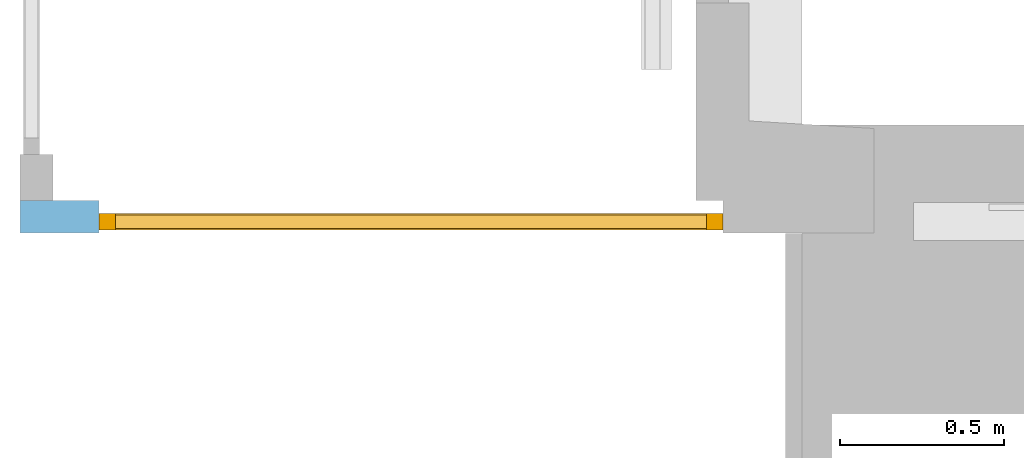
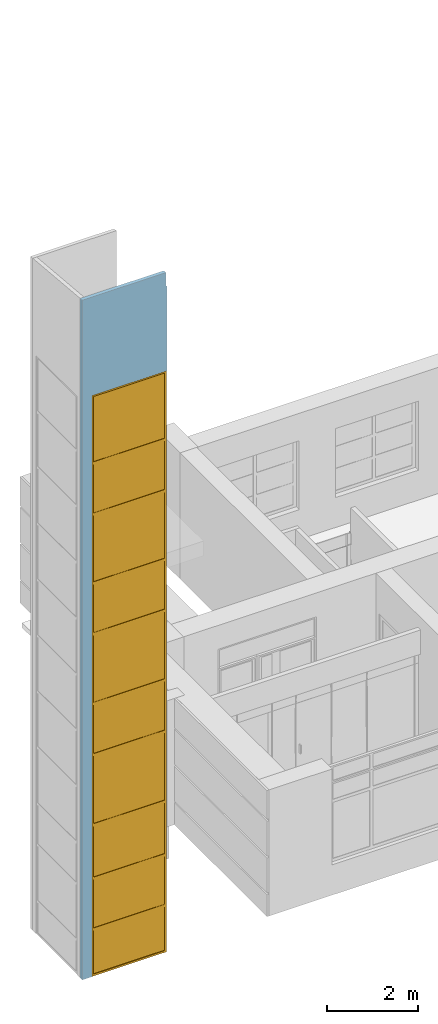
# One storey, part 59 of 66: 1 window, 2 openings, plus 1 element that does not belong to this part.
"""IFC2X3 building model written with IfcOpenShell, lengths in millimetres."""

from ifc_helpers import new_model, entity, si_unit, converted_unit, derived_unit, direction, frame, frame_2d, origin, place, context, subcontext, project, spatial, rectangle, extrude, face_set, faceted_brep, surface_model, source, transform, mapped, material, material_list, layer, layer_set, layer_usage, type_object, type_shapes, element, fill, save


model = new_model("IFC2X3")

# Units and contexts
model_context = context("Model", 3, precision=0.01, world=origin(), true_north=direction((6.12303176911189e-17, 1.0)))
body_context = subcontext(model_context, "Body", "Model", "MODEL_VIEW")
ifc_project = project(units=[si_unit("LENGTHUNIT", "METRE", prefix="MILLI"), si_unit("AREAUNIT", "SQUARE_METRE"), si_unit("VOLUMEUNIT", "CUBIC_METRE"), converted_unit("PLANEANGLEUNIT", "DEGREE", entity("IfcRatioMeasure", 0.0174532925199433), si_unit("PLANEANGLEUNIT", "RADIAN"), dimensions=[0, 0, 0, 0, 0, 0, 0]), si_unit("MASSUNIT", "GRAM", prefix="KILO"), derived_unit("MASSDENSITYUNIT", [(si_unit("MASSUNIT", "GRAM", prefix="KILO"), 1), (si_unit("LENGTHUNIT", "METRE"), -3)]), si_unit("TIMEUNIT", "SECOND"), si_unit("FREQUENCYUNIT", "HERTZ"), si_unit("THERMODYNAMICTEMPERATUREUNIT", "DEGREE_CELSIUS"), derived_unit("THERMALTRANSMITTANCEUNIT", [(si_unit("MASSUNIT", "GRAM", prefix="KILO"), 1), (si_unit("THERMODYNAMICTEMPERATUREUNIT", "KELVIN"), -1), (si_unit("TIMEUNIT", "SECOND"), -3)]), derived_unit("VOLUMETRICFLOWRATEUNIT", [(si_unit("LENGTHUNIT", "METRE"), 3), (si_unit("TIMEUNIT", "SECOND"), -1)]), si_unit("ELECTRICCURRENTUNIT", "AMPERE"), si_unit("ELECTRICVOLTAGEUNIT", "VOLT"), si_unit("POWERUNIT", "WATT"), si_unit("FORCEUNIT", "NEWTON", prefix="KILO"), si_unit("ILLUMINANCEUNIT", "LUX"), si_unit("LUMINOUSFLUXUNIT", "LUMEN"), si_unit("LUMINOUSINTENSITYUNIT", "CANDELA"), derived_unit("USERDEFINED", [(si_unit("MASSUNIT", "GRAM", prefix="KILO"), -1), (si_unit("LENGTHUNIT", "METRE"), -2), (si_unit("TIMEUNIT", "SECOND"), 3), (si_unit("LUMINOUSFLUXUNIT", "LUMEN"), 1)]), derived_unit("LINEARVELOCITYUNIT", [(si_unit("LENGTHUNIT", "METRE"), 1), (si_unit("TIMEUNIT", "SECOND"), -1)]), si_unit("PRESSUREUNIT", "PASCAL"), derived_unit("USERDEFINED", [(si_unit("LENGTHUNIT", "METRE"), -2), (si_unit("MASSUNIT", "GRAM", prefix="KILO"), 1), (si_unit("TIMEUNIT", "SECOND"), -2)])], contexts=[model_context])

# Site, building, storey
site_placement = place(None, frame((-151.875543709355, 2715.0, 0.0)))
site = spatial("IfcSite", under=ifc_project, at=site_placement, Name="Surface", CompositionType="ELEMENT")
building_placement = place(site_placement, origin())
building = spatial("IfcBuilding", under=site, at=building_placement, CompositionType="ELEMENT")
storey_placement = place(building_placement, frame((0.0, 0.0, 3350.0)))
storey = spatial("IfcBuildingStorey", under=building, at=storey_placement, Name="2 korrus", CompositionType="ELEMENT", Elevation=3350.00000000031)

# Wall, openings, window
ifc_material_1 = material(Name="Lifti sein_hall")
ifc_layer = layer(ifc_material_1, 100.0)
ifc_layer_set = layer_set([ifc_layer], Name="Basic Wall:ol.olev liftišahti sein")
ifc_layer_usage = layer_usage(ifc_layer_set, "AXIS2", "NEGATIVE", 50.0)
wall_type = type_object("IfcWallType", Name="Basic Wall:ol.olev liftišahti sein", PredefinedType="STANDARD", material=ifc_layer_set)
wall_placement = place(storey_placement, frame((-459.743595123, 4121.05917364, -3350.0), z_axis=(0.0, 0.0, 1.0), x_axis=(-1.0, 0.0, 0.0)))
wall = element("IfcWallStandardCase", 1, at=wall_placement, inside=storey, type_object=wall_type, material=ifc_layer_usage, Name="SEIN - 006", ObjectType="Basic Wall:ol.olev liftišahti sein", context=body_context, shape_type="SweptSolid", body=[
    extrude(rectangle(XDim=2140.380859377, YDim=100.0, at=frame_2d((1070.1904296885, 0.0), x_axis=(-1.0, 0.0))), origin(), (0.0, 0.0, 1.0), 18219.5075525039),
])
opening_1_placement = place(wall_placement, frame((19821.7441181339, 17046.8201727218, 16384.3630317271)))
element("IfcOpeningElement", 2, at=opening_1_placement, cuts=wall, Name="SEIN - 006", ObjectType="Opening", context=body_context, shape_type="Brep", body=[
    faceted_brep([(-19799.6043302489, -17106.8201727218, 22117.4863914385), (-19799.6043302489, -16986.8201727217, 22173.5767483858), (-54849.5495283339, -16986.8201727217, 22173.5767483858), (-54849.5495283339, -17106.8201727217, 22117.4863914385), (-19799.6043302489, -17106.8201727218, 1418.61529187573), (-54849.5495283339, -17106.8201727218, 1418.61529187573), (-54849.5495283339, -16986.8201727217, 1474.70564882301), (-19799.6043302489, -16986.8201727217, 1474.70564882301), (-19799.6043302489, -16986.8201727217, 1836.04609951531), (-19799.6043302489, -17106.8201727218, 1825.22715465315), (-19799.6043302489, -16986.8201727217, 20663.6560064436), (-37503.1073768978, -16986.8201727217, 20663.6560064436), (-37503.1073768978, -16986.8201727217, 1836.04609951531), (-37503.1073768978, -17106.8201727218, 1825.22715465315), (-37503.1073768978, -17106.8201727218, 20652.8370615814), (-19799.6043302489, -17106.8201727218, 20652.8370615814), (0.0, -39035.3802598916, 18675.8047074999), (0.0, -1683.77084489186, 22043.3463972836), (-37503.1073768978, -1683.77084489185, 22043.3463972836), (-37503.1073768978, -39035.3802598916, 18675.8047074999), (0.0, -37351.6094149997, 0.0), (-37503.1073768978, -37351.6094149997, 0.0), (-37503.1073768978, 0.0, 3367.54168978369), (0.0, 0.0, 3367.54168978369)], [[[0, 1, 2, 3]], [[4, 5, 6, 7]], [[7, 8, 9, 4]], [[1, 10, 11, 12, 8, 7, 6, 2]], [[2, 6, 5, 3]], [[3, 5, 4, 9, 13, 14, 15, 0]], [[16, 17, 18, 11, 10, 15, 14, 19]], [[20, 21, 13, 9, 8, 12, 22, 23]], [[16, 20, 23, 17]], [[17, 23, 22, 18]], [[19, 14, 13, 21]], [[19, 21, 20, 16]], [[22, 12, 11, 18]], [[0, 15, 10, 1]]]),
])
opening_2_placement = place(wall_placement, frame((-459.743595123, 4121.05917364, 3350.0), z_axis=(0.0, 0.0, 1.0), x_axis=(-1.0, 0.0, 0.0)))
opening_2 = element("IfcOpeningElement", 3, at=opening_2_placement, cuts=wall, Name="SEIN - 006", ObjectType="Opening", context=body_context, shape_type="SweptSolid", body=[
    extrude(rectangle(XDim=15579.7043135, YDim=1900.0, at=frame_2d((4.54747350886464e-13, 0.0), x_axis=(1.0, 0.0))), frame((-1409.743595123, 4272.95917364, 4439.85215673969), z_axis=(0.0, -1.0, 0.0), x_axis=(0.0, 0.0, 1.0)), (0.0, 0.0, 1.0), 303.0),
])
ifc_material_2 = material(Name="Paint - Dark Gray")
ifc_material_3 = material(Name="Glass - Clear Fast")
ifc_material_list_1 = material_list([ifc_material_2, ifc_material_3])
ifc_material_list_2 = material_list([ifc_material_2, ifc_material_3])
window_style = type_object("IfcWindowStyle", Name="AKEN - 003", ConstructionType="NOTDEFINED", OperationType="NOTDEFINED", ParameterTakesPrecedence=False, Sizeable=False, material=ifc_material_list_2)
shared_shape = source(origin(), body_context, "Body", "SurfaceModel", [
    surface_model("IfcFaceBasedSurfaceModel", [(50.0, -161.1, 15529.70431351), (50.0, -111.1, 15529.70431351), (0.0, -111.1, 15529.70431351), (0.0, -161.1, 15529.70431351), (50.0, -161.1, 50.0), (50.0, -111.1, 50.0), (50.0, -111.1, 15529.70431351), (50.0, -161.1, 15529.70431351), (50.0, -111.1, 15529.70431351), (50.0, -111.1, 50.0), (0.0, -111.1, 50.0), (0.0, -111.1, 15529.70431351), (0.0, -161.1, 15529.70431351), (0.0, -111.1, 15529.70431351), (0.0, -111.1, 50.0), (0.0, -161.1, 50.0), (50.0, -161.1, 15529.70431351), (0.0, -161.1, 15529.70431351), (0.0, -161.1, 50.0), (50.0, -161.1, 50.0), (0.0, -161.1, 50.0), (0.0, -111.1, 50.0), (50.0, -111.1, 50.0), (50.0, -161.1, 50.0), (1850.0, -161.1, 50.0), (1850.0, -111.1, 50.0), (1900.0, -111.1, 50.0), (1900.0, -161.1, 50.0), (1850.0, -161.1, 15529.70431351), (1850.0, -111.1, 15529.70431351), (1850.0, -111.1, 50.0), (1850.0, -161.1, 50.0), (1850.0, -111.1, 50.0), (1850.0, -111.1, 15529.70431351), (1900.0, -111.1, 15529.70431351), (1900.0, -111.1, 50.0), (1900.0, -161.1, 50.0), (1900.0, -111.1, 50.0), (1900.0, -111.1, 15529.70431351), (1900.0, -161.1, 15529.70431351), (1850.0, -161.1, 50.0), (1900.0, -161.1, 50.0), (1900.0, -161.1, 15529.70431351), (1850.0, -161.1, 15529.70431351), (1900.0, -161.1, 15529.70431351), (1900.0, -111.1, 15529.70431351), (1850.0, -111.1, 15529.70431351), (1850.0, -161.1, 15529.70431351), (50.0, -161.1, 50.0), (50.0, -111.1, 50.0), (0.0, -111.1, 50.0), (0.0, -161.1, 50.0), (1850.0, -161.1, 50.0), (1850.0, -111.1, 50.0), (50.0, -111.1, 50.0), (50.0, -161.1, 50.0), (50.0, -111.1, 50.0), (1850.0, -111.1, 50.0), (1900.0, -111.1, 50.0), (1900.0, -111.1, 9.99989424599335e-09), (0.0, -111.1, 9.99989424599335e-09), (0.0, -111.1, 50.0), (0.0, -161.1, 50.0), (0.0, -111.1, 50.0), (0.0, -111.1, 9.99989424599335e-09), (0.0, -161.1, 9.99989424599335e-09), (50.0, -161.1, 50.0), (0.0, -161.1, 50.0), (0.0, -161.1, 9.99989424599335e-09), (1900.0, -161.1, 9.99989424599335e-09), (1900.0, -161.1, 50.0), (1850.0, -161.1, 50.0), (1900.0, -161.1, 50.0), (1900.0, -111.1, 50.0), (1850.0, -111.1, 50.0), (1850.0, -161.1, 50.0), (1900.0, -161.1, 9.99989424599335e-09), (1900.0, -111.1, 9.99989424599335e-09), (1900.0, -111.1, 50.0), (1900.0, -161.1, 50.0), (0.0, -161.1, 9.99989424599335e-09), (0.0, -111.1, 9.99989424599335e-09), (1900.0, -111.1, 9.99989424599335e-09), (1900.0, -161.1, 9.99989424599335e-09), (1850.0, -161.1, 15529.70431351), (1850.0, -111.1, 15529.70431351), (1900.0, -111.1, 15529.70431351), (1900.0, -161.1, 15529.70431351), (50.0, -161.1, 15529.70431351), (50.0, -111.1, 15529.70431351), (1850.0, -111.1, 15529.70431351), (1850.0, -161.1, 15529.70431351), (1850.0, -111.1, 15529.70431351), (50.0, -111.1, 15529.70431351), (0.0, -111.1, 15529.70431351), (0.0, -111.1, 15579.70431351), (1900.0, -111.1, 15579.70431351), (1900.0, -111.1, 15529.70431351), (1900.0, -161.1, 15529.70431351), (1900.0, -111.1, 15529.70431351), (1900.0, -111.1, 15579.70431351), (1900.0, -161.1, 15579.70431351), (1850.0, -161.1, 15529.70431351), (1900.0, -161.1, 15529.70431351), (1900.0, -161.1, 15579.70431351), (0.0, -161.1, 15579.70431351), (0.0, -161.1, 15529.70431351), (50.0, -161.1, 15529.70431351), (0.0, -161.1, 15529.70431351), (0.0, -111.1, 15529.70431351), (50.0, -111.1, 15529.70431351), (50.0, -161.1, 15529.70431351), (0.0, -161.1, 15579.70431351), (0.0, -111.1, 15579.70431351), (0.0, -111.1, 15529.70431351), (0.0, -161.1, 15529.70431351), (1900.0, -161.1, 15579.70431351), (1900.0, -111.1, 15579.70431351), (0.0, -111.1, 15579.70431351), (0.0, -161.1, 15579.70431351), (50.0, -156.1, 1212.9583059), (50.0, -116.1, 1212.9583059), (1850.0, -116.1, 1212.9583059), (1850.0, -156.1, 1212.9583059), (50.0, -156.1, 1282.9583059), (50.0, -116.1, 1282.9583059), (50.0, -116.1, 1212.9583059), (50.0, -156.1, 1212.9583059), (50.0, -116.1, 1212.9583059), (50.0, -116.1, 1282.9583059), (1850.0, -116.1, 1282.9583059), (1850.0, -116.1, 1212.9583059), (1850.0, -156.1, 1212.9583059), (1850.0, -116.1, 1212.9583059), (1850.0, -116.1, 1282.9583059), (1850.0, -156.1, 1282.9583059), (50.0, -156.1, 1212.9583059), (1850.0, -156.1, 1212.9583059), (1850.0, -156.1, 1282.9583059), (50.0, -156.1, 1282.9583059), (1850.0, -156.1, 1282.9583059), (1850.0, -116.1, 1282.9583059), (50.0, -116.1, 1282.9583059), (50.0, -156.1, 1282.9583059), (50.0, -156.1, 2574.54152724), (50.0, -116.1, 2574.54152724), (1850.0, -116.1, 2574.54152724), (1850.0, -156.1, 2574.54152724), (50.0, -156.1, 2644.54152724), (50.0, -116.1, 2644.54152724), (50.0, -116.1, 2574.54152724), (50.0, -156.1, 2574.54152724), (50.0, -116.1, 2574.54152724), (50.0, -116.1, 2644.54152724), (1850.0, -116.1, 2644.54152724), (1850.0, -116.1, 2574.54152724), (1850.0, -156.1, 2574.54152724), (1850.0, -116.1, 2574.54152724), (1850.0, -116.1, 2644.54152724), (1850.0, -156.1, 2644.54152724), (50.0, -156.1, 2574.54152724), (1850.0, -156.1, 2574.54152724), (1850.0, -156.1, 2644.54152724), (50.0, -156.1, 2644.54152724), (1850.0, -156.1, 2644.54152724), (1850.0, -116.1, 2644.54152724), (50.0, -116.1, 2644.54152724), (50.0, -156.1, 2644.54152724), (50.0, -156.1, 4006.69658459), (50.0, -116.1, 4006.69658459), (1850.0, -116.1, 4006.69658459), (1850.0, -156.1, 4006.69658459), (50.0, -156.1, 4076.69658459), (50.0, -116.1, 4076.69658459), (50.0, -116.1, 4006.69658459), (50.0, -156.1, 4006.69658459), (50.0, -116.1, 4006.69658459), (50.0, -116.1, 4076.69658459), (1850.0, -116.1, 4076.69658459), (1850.0, -116.1, 4006.69658459), (1850.0, -156.1, 4006.69658459), (1850.0, -116.1, 4006.69658459), (1850.0, -116.1, 4076.69658459), (1850.0, -156.1, 4076.69658459), (50.0, -156.1, 4006.69658459), (1850.0, -156.1, 4006.69658459), (1850.0, -156.1, 4076.69658459), (50.0, -156.1, 4076.69658459), (1850.0, -156.1, 4076.69658459), (1850.0, -116.1, 4076.69658459), (50.0, -116.1, 4076.69658459), (50.0, -156.1, 4076.69658459), (50.0, -156.1, 5885.12166978), (50.0, -116.1, 5885.12166978), (1850.0, -116.1, 5885.12166978), (1850.0, -156.1, 5885.12166978), (50.0, -156.1, 5955.12166978), (50.0, -116.1, 5955.12166978), (50.0, -116.1, 5885.12166978), (50.0, -156.1, 5885.12166978), (50.0, -116.1, 5885.12166978), (50.0, -116.1, 5955.12166978), (1850.0, -116.1, 5955.12166978), (1850.0, -116.1, 5885.12166978), (1850.0, -156.1, 5885.12166978), (1850.0, -116.1, 5885.12166978), (1850.0, -116.1, 5955.12166978), (1850.0, -156.1, 5955.12166978), (50.0, -156.1, 5885.12166978), (1850.0, -156.1, 5885.12166978), (1850.0, -156.1, 5955.12166978), (50.0, -156.1, 5955.12166978), (1850.0, -156.1, 5955.12166978), (1850.0, -116.1, 5955.12166978), (50.0, -116.1, 5955.12166978), (50.0, -156.1, 5955.12166978), (50.0, -156.1, 7258.14809749), (50.0, -116.1, 7258.14809749), (1850.0, -116.1, 7258.14809749), (1850.0, -156.1, 7258.14809749), (50.0, -156.1, 7328.14809749), (50.0, -116.1, 7328.14809749), (50.0, -116.1, 7258.14809749), (50.0, -156.1, 7258.14809749), (50.0, -116.1, 7258.14809749), (50.0, -116.1, 7328.14809749), (1850.0, -116.1, 7328.14809749), (1850.0, -116.1, 7258.14809749), (1850.0, -156.1, 7258.14809749), (1850.0, -116.1, 7258.14809749), (1850.0, -116.1, 7328.14809749), (1850.0, -156.1, 7328.14809749), (50.0, -156.1, 7258.14809749), (1850.0, -156.1, 7258.14809749), (1850.0, -156.1, 7328.14809749), (50.0, -156.1, 7328.14809749), (1850.0, -156.1, 7328.14809749), (1850.0, -116.1, 7328.14809749), (50.0, -116.1, 7328.14809749), (50.0, -156.1, 7328.14809749), (50.0, -156.1, 9125.53915025), (50.0, -116.1, 9125.53915025), (1850.0, -116.1, 9125.53915025), (1850.0, -156.1, 9125.53915025), (50.0, -156.1, 9195.53915025), (50.0, -116.1, 9195.53915025), (50.0, -116.1, 9125.53915025), (50.0, -156.1, 9125.53915025), (50.0, -116.1, 9125.53915025), (50.0, -116.1, 9195.53915025), (1850.0, -116.1, 9195.53915025), (1850.0, -116.1, 9125.53915025), (1850.0, -156.1, 9125.53915025), (1850.0, -116.1, 9125.53915025), (1850.0, -116.1, 9195.53915025), (1850.0, -156.1, 9195.53915025), (50.0, -156.1, 9125.53915025), (1850.0, -156.1, 9125.53915025), (1850.0, -156.1, 9195.53915025), (50.0, -156.1, 9195.53915025), (1850.0, -156.1, 9195.53915025), (1850.0, -116.1, 9195.53915025), (50.0, -116.1, 9195.53915025), (50.0, -156.1, 9195.53915025), (50.0, -156.1, 10489.27816391), (50.0, -116.1, 10489.27816391), (1850.0, -116.1, 10489.27816391), (1850.0, -156.1, 10489.27816391), (50.0, -156.1, 10559.27816391), (50.0, -116.1, 10559.27816391), (50.0, -116.1, 10489.27816391), (50.0, -156.1, 10489.27816391), (50.0, -116.1, 10489.27816391), (50.0, -116.1, 10559.27816391), (1850.0, -116.1, 10559.27816391), (1850.0, -116.1, 10489.27816391), (1850.0, -156.1, 10489.27816391), (1850.0, -116.1, 10489.27816391), (1850.0, -116.1, 10559.27816391), (1850.0, -156.1, 10559.27816391), (50.0, -156.1, 10489.27816391), (1850.0, -156.1, 10489.27816391), (1850.0, -156.1, 10559.27816391), (50.0, -156.1, 10559.27816391), (1850.0, -156.1, 10559.27816391), (1850.0, -116.1, 10559.27816391), (50.0, -116.1, 10559.27816391), (50.0, -156.1, 10559.27816391), (50.0, -156.1, 12333.24898861), (50.0, -116.1, 12333.24898861), (1850.0, -116.1, 12333.24898861), (1850.0, -156.1, 12333.24898861), (50.0, -156.1, 12403.24898861), (50.0, -116.1, 12403.24898861), (50.0, -116.1, 12333.24898861), (50.0, -156.1, 12333.24898861), (50.0, -116.1, 12333.24898861), (50.0, -116.1, 12403.24898861), (1850.0, -116.1, 12403.24898861), (1850.0, -116.1, 12333.24898861), (1850.0, -156.1, 12333.24898861), (1850.0, -116.1, 12333.24898861), (1850.0, -116.1, 12403.24898861), (1850.0, -156.1, 12403.24898861), (50.0, -156.1, 12333.24898861), (1850.0, -156.1, 12333.24898861), (1850.0, -156.1, 12403.24898861), (50.0, -156.1, 12403.24898861), (1850.0, -156.1, 12403.24898861), (1850.0, -116.1, 12403.24898861), (50.0, -116.1, 12403.24898861), (50.0, -156.1, 12403.24898861), (50.0, -156.1, 13705.33329911), (50.0, -116.1, 13705.33329911), (1850.0, -116.1, 13705.33329911), (1850.0, -156.1, 13705.33329911), (50.0, -156.1, 13775.33329911), (50.0, -116.1, 13775.33329911), (50.0, -116.1, 13705.33329911), (50.0, -156.1, 13705.33329911), (50.0, -116.1, 13705.33329911), (50.0, -116.1, 13775.33329911), (1850.0, -116.1, 13775.33329911), (1850.0, -116.1, 13705.33329911), (1850.0, -156.1, 13705.33329911), (1850.0, -116.1, 13705.33329911), (1850.0, -116.1, 13775.33329911), (1850.0, -156.1, 13775.33329911), (50.0, -156.1, 13705.33329911), (1850.0, -156.1, 13705.33329911), (1850.0, -156.1, 13775.33329911), (50.0, -156.1, 13775.33329911), (1850.0, -156.1, 13775.33329911), (1850.0, -116.1, 13775.33329911), (50.0, -116.1, 13775.33329911), (50.0, -156.1, 13775.33329911)], [face_set([[[0, 1, 2, 3]]]), face_set([[[4, 5, 6, 7]]]), face_set([[[8, 9, 10, 11]]]), face_set([[[12, 13, 14, 15]]]), face_set([[[16, 17, 18, 19]]]), face_set([[[20, 21, 22, 23]]]), face_set([[[24, 25, 26, 27]]]), face_set([[[28, 29, 30, 31]]]), face_set([[[32, 33, 34, 35]]]), face_set([[[36, 37, 38, 39]]]), face_set([[[40, 41, 42, 43]]]), face_set([[[44, 45, 46, 47]]]), face_set([[[48, 49, 50, 51]]]), face_set([[[52, 53, 54, 55]]]), face_set([[[56, 57, 58, 59, 60, 61]]]), face_set([[[62, 63, 64, 65]]]), face_set([[[66, 67, 68, 69, 70, 71]]]), face_set([[[72, 73, 74, 75]]]), face_set([[[76, 77, 78, 79]]]), face_set([[[80, 81, 82, 83]]]), face_set([[[84, 85, 86, 87]]]), face_set([[[88, 89, 90, 91]]]), face_set([[[92, 93, 94, 95, 96, 97]]]), face_set([[[98, 99, 100, 101]]]), face_set([[[102, 103, 104, 105, 106, 107]]]), face_set([[[108, 109, 110, 111]]]), face_set([[[112, 113, 114, 115]]]), face_set([[[116, 117, 118, 119]]]), face_set([[[120, 121, 122, 123]]]), face_set([[[124, 125, 126, 127]]]), face_set([[[128, 129, 130, 131]]]), face_set([[[132, 133, 134, 135]]]), face_set([[[136, 137, 138, 139]]]), face_set([[[140, 141, 142, 143]]]), face_set([[[144, 145, 146, 147]]]), face_set([[[148, 149, 150, 151]]]), face_set([[[152, 153, 154, 155]]]), face_set([[[156, 157, 158, 159]]]), face_set([[[160, 161, 162, 163]]]), face_set([[[164, 165, 166, 167]]]), face_set([[[168, 169, 170, 171]]]), face_set([[[172, 173, 174, 175]]]), face_set([[[176, 177, 178, 179]]]), face_set([[[180, 181, 182, 183]]]), face_set([[[184, 185, 186, 187]]]), face_set([[[188, 189, 190, 191]]]), face_set([[[192, 193, 194, 195]]]), face_set([[[196, 197, 198, 199]]]), face_set([[[200, 201, 202, 203]]]), face_set([[[204, 205, 206, 207]]]), face_set([[[208, 209, 210, 211]]]), face_set([[[212, 213, 214, 215]]]), face_set([[[216, 217, 218, 219]]]), face_set([[[220, 221, 222, 223]]]), face_set([[[224, 225, 226, 227]]]), face_set([[[228, 229, 230, 231]]]), face_set([[[232, 233, 234, 235]]]), face_set([[[236, 237, 238, 239]]]), face_set([[[240, 241, 242, 243]]]), face_set([[[244, 245, 246, 247]]]), face_set([[[248, 249, 250, 251]]]), face_set([[[252, 253, 254, 255]]]), face_set([[[256, 257, 258, 259]]]), face_set([[[260, 261, 262, 263]]]), face_set([[[264, 265, 266, 267]]]), face_set([[[268, 269, 270, 271]]]), face_set([[[272, 273, 274, 275]]]), face_set([[[276, 277, 278, 279]]]), face_set([[[280, 281, 282, 283]]]), face_set([[[284, 285, 286, 287]]]), face_set([[[288, 289, 290, 291]]]), face_set([[[292, 293, 294, 295]]]), face_set([[[296, 297, 298, 299]]]), face_set([[[300, 301, 302, 303]]]), face_set([[[304, 305, 306, 307]]]), face_set([[[308, 309, 310, 311]]]), face_set([[[312, 313, 314, 315]]]), face_set([[[316, 317, 318, 319]]]), face_set([[[320, 321, 322, 323]]]), face_set([[[324, 325, 326, 327]]]), face_set([[[328, 329, 330, 331]]]), face_set([[[332, 333, 334, 335]]])]),
    surface_model("IfcFaceBasedSurfaceModel", [(50.0, -146.1, 50.0), (1850.0, -146.1, 50.0), (1850.0, -146.1, 15529.70431351), (50.0, -146.1, 15529.70431351), (50.0, -126.1, 50.0), (50.0, -126.1, 15529.70431351), (1850.0, -126.1, 15529.70431351), (1850.0, -126.1, 50.0)], [face_set([[[0, 1, 2, 3]]]), face_set([[[4, 5, 6, 7]]])]),
])
type_shapes(window_style, [shared_shape])
window_placement = place(opening_2_placement, frame((-459.743595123, 3969.95917364, -3350.0), z_axis=(0.0, 0.0, 1.0), x_axis=(-1.0, 0.0, 0.0)))
window = element("IfcWindow", 4, at=window_placement, inside=storey, type_object=window_style, material=ifc_material_list_1, Name="AKEN - 003 69996:AKEN - 003 69996", ObjectType="AKEN - 003 69996", OverallHeight=1900.0, OverallWidth=15579.7043135, context=body_context, shape_type="MappedRepresentation", body=[
    mapped(shared_shape, transform((0.0, 0.0, 0.0), scale=1.0)),
])
fill(opening_2, window)

save(model, "model.ifc")
